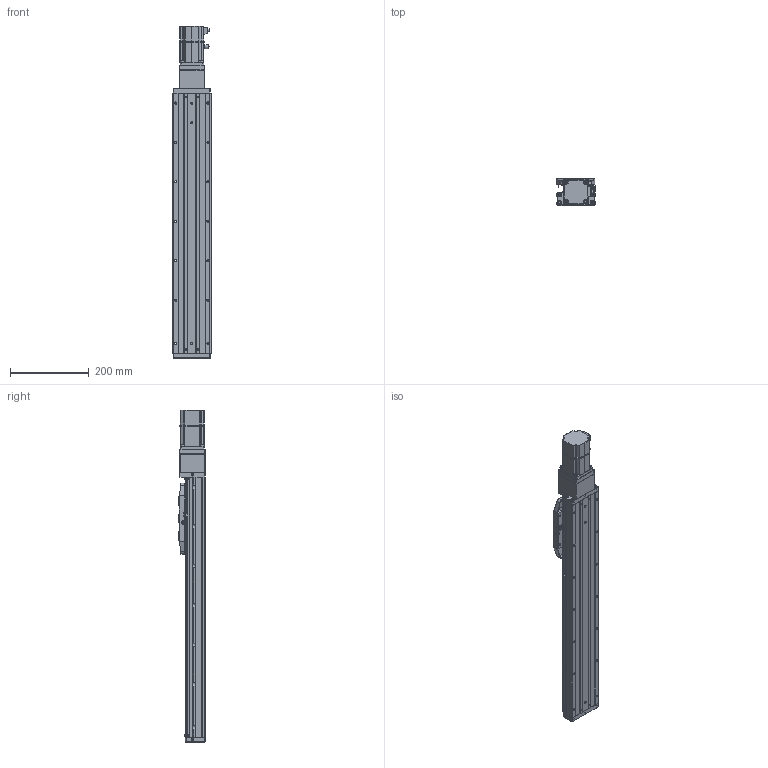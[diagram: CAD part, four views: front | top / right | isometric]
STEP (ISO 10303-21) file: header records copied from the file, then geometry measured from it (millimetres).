
FILE_DESCRIPTION (( 'STEP AP203' ), '1' );
FILE_NAME ('CTHA100-450-BC-M20-C4L.step', '2022-07-06T08:52:37', ( '微软用户' ), ( '微软中国' ), 'SwSTEP 2.0', 'SolidWorks 2020', '' );
FILE_SCHEMA (( 'CONFIG_CONTROL_DESIGN' ));
Length unit declared in the file: millimetre
Products named in the file (20): KTHA100-001_660; GBT77-2000 M3×3; CTHA86-006-1_CTHA86-006-2; KTHA100-004; GBT 70.1-M3℅6; GBT 70.3-M3℅6; KTHA100-005; GBT70.1 M5℅16; CTHA100-002; GB¨uT 70.2-M3¡Á5_M3¡Á6; CTHA60-016; CTHA100-031; EE_SX911P_R; _X2_4E0983F1_X0_200W_1; CTHA86-030; CTHA60-017; CTHA86-013; CTHA100-450-BC-M20-C4L; CTHA60-021; CTHA86-027
Assembly tree (63 placements, depth 2):
  CTHA100-450-BC-M20-C4L
    KTHA100-001_660
    KTHA100-004
    KTHA100-005
    GB¨uT 70.2-M3¡Á5_M3¡Á6  x10
    EE_SX911P_R  x3
    CTHA60-017  x3
    CTHA60-021  x2
    GBT77-2000 M3×3  x6
    GBT 70.1-M3℅6  x6
    GBT70.1 M5℅16  x14
    CTHA60-016  x2
    _X2_4E0983F1_X0_200W_1
    CTHA86-013
    CTHA86-027
    CTHA86-006-1_CTHA86-006-2
    GBT 70.3-M3℅6  x6
    CTHA100-002
    CTHA100-031
    CTHA86-030  x2
Bounding box: 98.82 x 68 x 842.5 mm (x, y, z)
Volume: 3080941.3 mm3; surface area: 546320.8 mm2
Topology: 65 solids, 65 shells, 2619 faces, 6270 edges, 3868 vertices
Faces by surface type: plane 1363, cylinder 679, cone 372, torus 112, bspline 69, sphere 24
Entity records: 44996 total; most frequent: CARTESIAN_POINT 8450, DIRECTION 7041, ORIENTED_EDGE 6812, EDGE_CURVE 3406, AXIS2_PLACEMENT_3D 2395, VECTOR 2251, LINE 2251, VERTEX_POINT 2146
